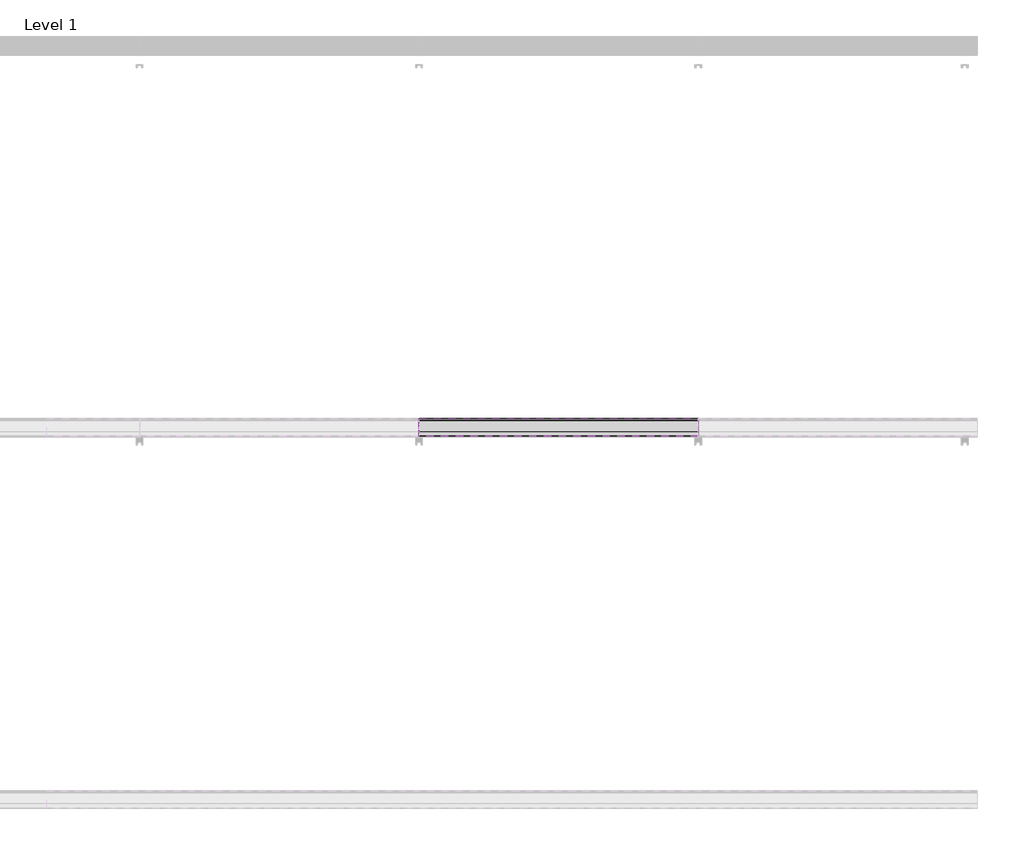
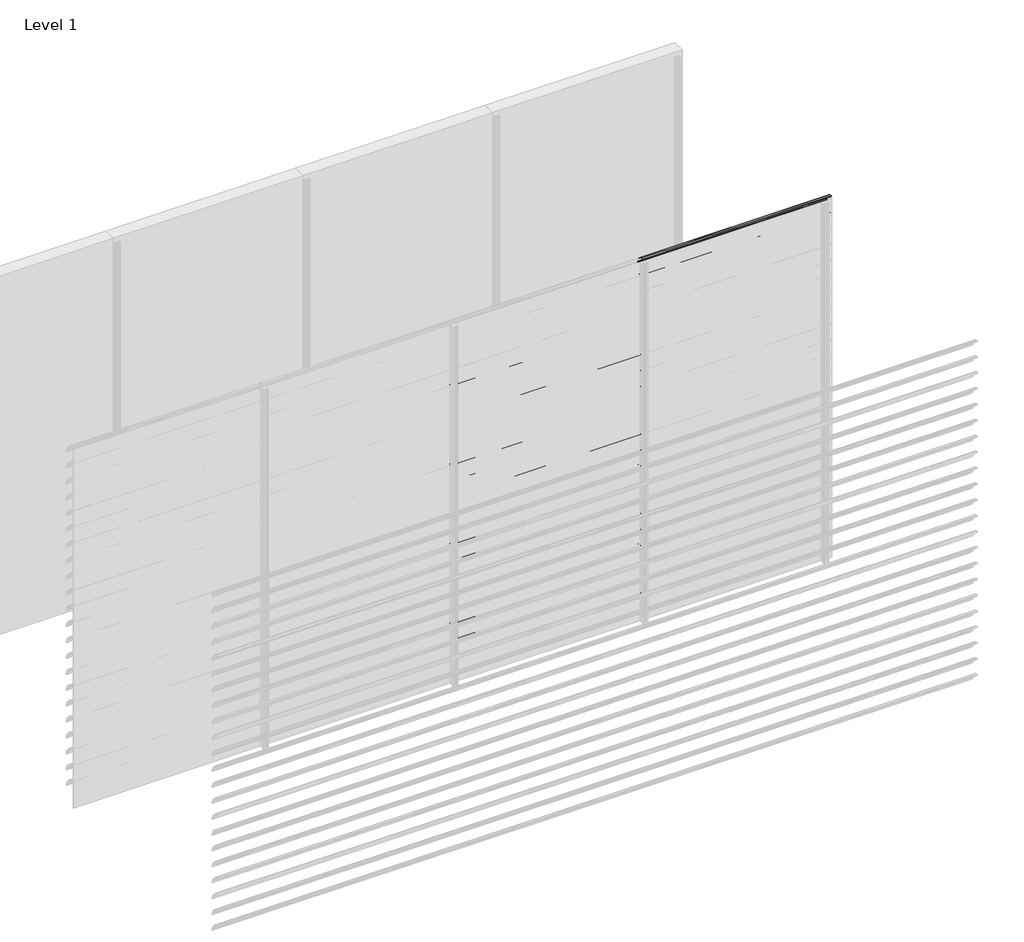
# One storey, part 45 of 57: 20 proxies.
"""IFC4 building model written with IfcOpenShell, lengths in millimetres."""

from ifc_helpers import new_model, si_unit, point, frame, frame_2d, origin, place, context, project, spatial, polyline, circle_curve, trimmed, segment, composite_curve, outline, extrude, element, save

model = new_model("IFC4")

# Units and contexts
model_context = context("Model", 3, world=origin())
ifc_project = project(units=[si_unit("LENGTHUNIT", "METRE", prefix="MILLI")], contexts=[model_context])

# Site, building, storey
site = spatial("IfcSite", under=ifc_project)
building = spatial("IfcBuilding", under=site)
storey = spatial("IfcBuildingStorey", under=building, Name="Level 1", Elevation=0.0)

# Proxies
placement = place(None, origin())
element("IfcBuildingElementProxy", 1, Name="Wall Sweeps", at=placement, inside=storey, context=model_context, shape_type="SweptSolid", body=[
    extrude(outline(composite_curve([segment(trimmed(circle_curve(frame_2d((-11993.7822526, 2484.4913792)), 4.2177474), [point((-11989.6985606, 2485.5462976))], [point((-11993.7822526, 2488.7091266))], False, "CARTESIAN"), True, "CONTINUOUS"), segment(trimmed(circle_curve(frame_2d((-12018.7150834, 2386.2536312)), 105.4456002), [point((-11993.7822526, 2488.7091266))], [point((-11971.7914298, 2480.6832099))], False, "CARTESIAN"), True, "CONTINUOUS"), segment(trimmed(circle_curve(frame_2d((-12061.7199745, 2332.0352476)), 173.7335887), [point((-11971.7914298, 2480.6832099))], [point((-11913.0720121, 2421.9637922))], False, "CARTESIAN"), True, "CONTINUOUS"), segment(trimmed(circle_curve(frame_2d((-12004.9297178, 2370.1860314)), 105.4456002), [point((-11913.0720121, 2421.9637922))], [point((-11903.6249616, 2399.4455765))], False, "CARTESIAN"), True, "CONTINUOUS"), segment(trimmed(circle_curve(frame_2d((-11907.809737, 2398.3307305)), 4.3307305), [point((-11903.6249616, 2399.4455765))], [point((-11909.0769196, 2394.189538))], False, "CARTESIAN"), True, "CONTINUOUS"), segment(polyline([(-11909.0769196, 2394.189538), (-11934.7401984, 2418.9722783)]), True, "CONTINUOUS"), segment(trimmed(circle_curve(frame_2d((-11931.3879574, 2421.2977626)), 4.079877), [point((-11934.7401984, 2418.9722783))], [point((-11930.7310597, 2425.3244091))], False, "CARTESIAN"), True, "CONTINUOUS"), segment(trimmed(circle_curve(frame_2d((-12014.6665585, 2403.2544323)), 86.7885467), [point((-11930.7310597, 2425.3244091))], [point((-11942.3028351, 2451.1683485))], True, "CARTESIAN"), True, "CONTINUOUS"), segment(polyline([(-11942.3028351, 2451.1683485), (-11940.7230099, 2453.9046861)]), True, "CONTINUOUS"), segment(trimmed(circle_curve(frame_2d((-12061.7199745, 2332.0352476)), 171.7335887), [point((-11940.7230099, 2453.9046861))], [point((-11972.7555872, 2478.9289618))], True, "CARTESIAN"), True, "CONTINUOUS"), segment(trimmed(circle_curve(frame_2d((-12018.7150834, 2386.2536312)), 103.4456002), [point((-11972.7555872, 2478.9289618))], [point((-11989.6985606, 2485.5462976))], True, "CARTESIAN"), True, "CONTINUOUS")], self_intersect=False)), frame((3000.0, 0.0, 0.0), z_axis=(1.0, 0.0, 0.0), x_axis=(0.0, 1.0, 0.0)), (0.0, 0.0, 1.0), 1500.0),
])
element("IfcBuildingElementProxy", 2, Name="Wall Sweeps", at=placement, inside=storey, context=model_context, shape_type="SweptSolid", body=[
    extrude(outline(composite_curve([segment(trimmed(circle_curve(frame_2d((-11993.7822526, 2351.4913792)), 4.2177474), [point((-11989.6985606, 2352.5462976))], [point((-11993.7822526, 2355.7091266))], False, "CARTESIAN"), True, "CONTINUOUS"), segment(trimmed(circle_curve(frame_2d((-12018.7150834, 2253.2536312)), 105.4456002), [point((-11993.7822526, 2355.7091266))], [point((-11971.7914298, 2347.6832099))], False, "CARTESIAN"), True, "CONTINUOUS"), segment(trimmed(circle_curve(frame_2d((-12061.7199745, 2199.0352476)), 173.7335887), [point((-11971.7914298, 2347.6832099))], [point((-11913.0720121, 2288.9637922))], False, "CARTESIAN"), True, "CONTINUOUS"), segment(trimmed(circle_curve(frame_2d((-12004.9297178, 2237.1860314)), 105.4456002), [point((-11913.0720121, 2288.9637922))], [point((-11903.6249616, 2266.4455765))], False, "CARTESIAN"), True, "CONTINUOUS"), segment(trimmed(circle_curve(frame_2d((-11907.809737, 2265.3307305)), 4.3307305), [point((-11903.6249616, 2266.4455765))], [point((-11909.0769196, 2261.189538))], False, "CARTESIAN"), True, "CONTINUOUS"), segment(polyline([(-11909.0769196, 2261.189538), (-11934.7401984, 2285.9722783)]), True, "CONTINUOUS"), segment(trimmed(circle_curve(frame_2d((-11931.3879574, 2288.2977626)), 4.079877), [point((-11934.7401984, 2285.9722783))], [point((-11930.7310597, 2292.3244091))], False, "CARTESIAN"), True, "CONTINUOUS"), segment(trimmed(circle_curve(frame_2d((-12014.6665585, 2270.2544323)), 86.7885467), [point((-11930.7310597, 2292.3244091))], [point((-11942.3028351, 2318.1683485))], True, "CARTESIAN"), True, "CONTINUOUS"), segment(polyline([(-11942.3028351, 2318.1683485), (-11940.7230099, 2320.9046861)]), True, "CONTINUOUS"), segment(trimmed(circle_curve(frame_2d((-12061.7199745, 2199.0352476)), 171.7335887), [point((-11940.7230099, 2320.9046861))], [point((-11972.7555872, 2345.9289618))], True, "CARTESIAN"), True, "CONTINUOUS"), segment(trimmed(circle_curve(frame_2d((-12018.7150834, 2253.2536312)), 103.4456002), [point((-11972.7555872, 2345.9289618))], [point((-11989.6985606, 2352.5462976))], True, "CARTESIAN"), True, "CONTINUOUS")], self_intersect=False)), frame((3000.0, 0.0, 0.0), z_axis=(1.0, 0.0, 0.0), x_axis=(0.0, 1.0, 0.0)), (0.0, 0.0, 1.0), 1500.0),
])
element("IfcBuildingElementProxy", 3, Name="Wall Sweeps", at=placement, inside=storey, context=model_context, shape_type="SweptSolid", body=[
    extrude(outline(composite_curve([segment(trimmed(circle_curve(frame_2d((-11993.7822526, 2218.4913792)), 4.2177474), [point((-11989.6985606, 2219.5462976))], [point((-11993.7822526, 2222.7091266))], False, "CARTESIAN"), True, "CONTINUOUS"), segment(trimmed(circle_curve(frame_2d((-12018.7150834, 2120.2536312)), 105.4456002), [point((-11993.7822526, 2222.7091266))], [point((-11971.7914298, 2214.6832099))], False, "CARTESIAN"), True, "CONTINUOUS"), segment(trimmed(circle_curve(frame_2d((-12061.7199745, 2066.0352476)), 173.7335887), [point((-11971.7914298, 2214.6832099))], [point((-11913.0720121, 2155.9637922))], False, "CARTESIAN"), True, "CONTINUOUS"), segment(trimmed(circle_curve(frame_2d((-12004.9297178, 2104.1860314)), 105.4456002), [point((-11913.0720121, 2155.9637922))], [point((-11903.6249616, 2133.4455765))], False, "CARTESIAN"), True, "CONTINUOUS"), segment(trimmed(circle_curve(frame_2d((-11907.809737, 2132.3307305)), 4.3307305), [point((-11903.6249616, 2133.4455765))], [point((-11909.0769196, 2128.189538))], False, "CARTESIAN"), True, "CONTINUOUS"), segment(polyline([(-11909.0769196, 2128.189538), (-11934.7401984, 2152.9722783)]), True, "CONTINUOUS"), segment(trimmed(circle_curve(frame_2d((-11931.3879574, 2155.2977626)), 4.079877), [point((-11934.7401984, 2152.9722783))], [point((-11930.7310597, 2159.3244091))], False, "CARTESIAN"), True, "CONTINUOUS"), segment(trimmed(circle_curve(frame_2d((-12014.6665585, 2137.2544323)), 86.7885467), [point((-11930.7310597, 2159.3244091))], [point((-11942.3028351, 2185.1683485))], True, "CARTESIAN"), True, "CONTINUOUS"), segment(polyline([(-11942.3028351, 2185.1683485), (-11940.7230099, 2187.9046861)]), True, "CONTINUOUS"), segment(trimmed(circle_curve(frame_2d((-12061.7199745, 2066.0352476)), 171.7335887), [point((-11940.7230099, 2187.9046861))], [point((-11972.7555872, 2212.9289618))], True, "CARTESIAN"), True, "CONTINUOUS"), segment(trimmed(circle_curve(frame_2d((-12018.7150834, 2120.2536312)), 103.4456002), [point((-11972.7555872, 2212.9289618))], [point((-11989.6985606, 2219.5462976))], True, "CARTESIAN"), True, "CONTINUOUS")], self_intersect=False)), frame((3000.0, 0.0, 0.0), z_axis=(1.0, 0.0, 0.0), x_axis=(0.0, 1.0, 0.0)), (0.0, 0.0, 1.0), 1500.0),
])
element("IfcBuildingElementProxy", 4, Name="Wall Sweeps", at=placement, inside=storey, context=model_context, shape_type="SweptSolid", body=[
    extrude(outline(composite_curve([segment(trimmed(circle_curve(frame_2d((-11993.7822526, 2085.4913792)), 4.2177474), [point((-11989.6985606, 2086.5462976))], [point((-11993.7822526, 2089.7091266))], False, "CARTESIAN"), True, "CONTINUOUS"), segment(trimmed(circle_curve(frame_2d((-12018.7150834, 1987.2536312)), 105.4456002), [point((-11993.7822526, 2089.7091266))], [point((-11971.7914298, 2081.6832099))], False, "CARTESIAN"), True, "CONTINUOUS"), segment(trimmed(circle_curve(frame_2d((-12061.7199745, 1933.0352476)), 173.7335887), [point((-11971.7914298, 2081.6832099))], [point((-11913.0720121, 2022.9637922))], False, "CARTESIAN"), True, "CONTINUOUS"), segment(trimmed(circle_curve(frame_2d((-12004.9297178, 1971.1860314)), 105.4456002), [point((-11913.0720121, 2022.9637922))], [point((-11903.6249616, 2000.4455765))], False, "CARTESIAN"), True, "CONTINUOUS"), segment(trimmed(circle_curve(frame_2d((-11907.809737, 1999.3307305)), 4.3307305), [point((-11903.6249616, 2000.4455765))], [point((-11909.0769196, 1995.189538))], False, "CARTESIAN"), True, "CONTINUOUS"), segment(polyline([(-11909.0769196, 1995.189538), (-11934.7401984, 2019.9722783)]), True, "CONTINUOUS"), segment(trimmed(circle_curve(frame_2d((-11931.3879574, 2022.2977626)), 4.079877), [point((-11934.7401984, 2019.9722783))], [point((-11930.7310597, 2026.3244091))], False, "CARTESIAN"), True, "CONTINUOUS"), segment(trimmed(circle_curve(frame_2d((-12014.6665585, 2004.2544323)), 86.7885467), [point((-11930.7310597, 2026.3244091))], [point((-11942.3028351, 2052.1683485))], True, "CARTESIAN"), True, "CONTINUOUS"), segment(polyline([(-11942.3028351, 2052.1683485), (-11940.7230099, 2054.9046861)]), True, "CONTINUOUS"), segment(trimmed(circle_curve(frame_2d((-12061.7199745, 1933.0352476)), 171.7335887), [point((-11940.7230099, 2054.9046861))], [point((-11972.7555872, 2079.9289618))], True, "CARTESIAN"), True, "CONTINUOUS"), segment(trimmed(circle_curve(frame_2d((-12018.7150834, 1987.2536312)), 103.4456002), [point((-11972.7555872, 2079.9289618))], [point((-11989.6985606, 2086.5462976))], True, "CARTESIAN"), True, "CONTINUOUS")], self_intersect=False)), frame((3000.0, 0.0, 0.0), z_axis=(1.0, 0.0, 0.0), x_axis=(0.0, 1.0, 0.0)), (0.0, 0.0, 1.0), 1500.0),
])
element("IfcBuildingElementProxy", 5, Name="Wall Sweeps", at=placement, inside=storey, context=model_context, shape_type="SweptSolid", body=[
    extrude(outline(composite_curve([segment(trimmed(circle_curve(frame_2d((-11993.7822526, 1952.4913792)), 4.2177474), [point((-11989.6985606, 1953.5462976))], [point((-11993.7822526, 1956.7091266))], False, "CARTESIAN"), True, "CONTINUOUS"), segment(trimmed(circle_curve(frame_2d((-12018.7150834, 1854.2536312)), 105.4456002), [point((-11993.7822526, 1956.7091266))], [point((-11971.7914298, 1948.6832099))], False, "CARTESIAN"), True, "CONTINUOUS"), segment(trimmed(circle_curve(frame_2d((-12061.7199745, 1800.0352476)), 173.7335887), [point((-11971.7914298, 1948.6832099))], [point((-11913.0720121, 1889.9637922))], False, "CARTESIAN"), True, "CONTINUOUS"), segment(trimmed(circle_curve(frame_2d((-12004.9297178, 1838.1860314)), 105.4456002), [point((-11913.0720121, 1889.9637922))], [point((-11903.6249616, 1867.4455765))], False, "CARTESIAN"), True, "CONTINUOUS"), segment(trimmed(circle_curve(frame_2d((-11907.809737, 1866.3307305)), 4.3307305), [point((-11903.6249616, 1867.4455765))], [point((-11909.0769196, 1862.189538))], False, "CARTESIAN"), True, "CONTINUOUS"), segment(polyline([(-11909.0769196, 1862.189538), (-11934.7401984, 1886.9722783)]), True, "CONTINUOUS"), segment(trimmed(circle_curve(frame_2d((-11931.3879574, 1889.2977626)), 4.079877), [point((-11934.7401984, 1886.9722783))], [point((-11930.7310597, 1893.3244091))], False, "CARTESIAN"), True, "CONTINUOUS"), segment(trimmed(circle_curve(frame_2d((-12014.6665585, 1871.2544323)), 86.7885467), [point((-11930.7310597, 1893.3244091))], [point((-11942.3028351, 1919.1683485))], True, "CARTESIAN"), True, "CONTINUOUS"), segment(polyline([(-11942.3028351, 1919.1683485), (-11940.7230099, 1921.9046861)]), True, "CONTINUOUS"), segment(trimmed(circle_curve(frame_2d((-12061.7199745, 1800.0352476)), 171.7335887), [point((-11940.7230099, 1921.9046861))], [point((-11972.7555872, 1946.9289618))], True, "CARTESIAN"), True, "CONTINUOUS"), segment(trimmed(circle_curve(frame_2d((-12018.7150834, 1854.2536312)), 103.4456002), [point((-11972.7555872, 1946.9289618))], [point((-11989.6985606, 1953.5462976))], True, "CARTESIAN"), True, "CONTINUOUS")], self_intersect=False)), frame((3000.0, 0.0, 0.0), z_axis=(1.0, 0.0, 0.0), x_axis=(0.0, 1.0, 0.0)), (0.0, 0.0, 1.0), 1500.0),
])
element("IfcBuildingElementProxy", 6, Name="Wall Sweeps", at=placement, inside=storey, context=model_context, shape_type="SweptSolid", body=[
    extrude(outline(composite_curve([segment(trimmed(circle_curve(frame_2d((-11993.7822526, 1819.4913792)), 4.2177474), [point((-11989.6985606, 1820.5462976))], [point((-11993.7822526, 1823.7091266))], False, "CARTESIAN"), True, "CONTINUOUS"), segment(trimmed(circle_curve(frame_2d((-12018.7150834, 1721.2536312)), 105.4456002), [point((-11993.7822526, 1823.7091266))], [point((-11971.7914298, 1815.6832099))], False, "CARTESIAN"), True, "CONTINUOUS"), segment(trimmed(circle_curve(frame_2d((-12061.7199745, 1667.0352476)), 173.7335887), [point((-11971.7914298, 1815.6832099))], [point((-11913.0720121, 1756.9637922))], False, "CARTESIAN"), True, "CONTINUOUS"), segment(trimmed(circle_curve(frame_2d((-12004.9297178, 1705.1860314)), 105.4456002), [point((-11913.0720121, 1756.9637922))], [point((-11903.6249616, 1734.4455765))], False, "CARTESIAN"), True, "CONTINUOUS"), segment(trimmed(circle_curve(frame_2d((-11907.809737, 1733.3307305)), 4.3307305), [point((-11903.6249616, 1734.4455765))], [point((-11909.0769196, 1729.189538))], False, "CARTESIAN"), True, "CONTINUOUS"), segment(polyline([(-11909.0769196, 1729.189538), (-11934.7401984, 1753.9722783)]), True, "CONTINUOUS"), segment(trimmed(circle_curve(frame_2d((-11931.3879574, 1756.2977626)), 4.079877), [point((-11934.7401984, 1753.9722783))], [point((-11930.7310597, 1760.3244091))], False, "CARTESIAN"), True, "CONTINUOUS"), segment(trimmed(circle_curve(frame_2d((-12014.6665585, 1738.2544323)), 86.7885467), [point((-11930.7310597, 1760.3244091))], [point((-11942.3028351, 1786.1683485))], True, "CARTESIAN"), True, "CONTINUOUS"), segment(polyline([(-11942.3028351, 1786.1683485), (-11940.7230099, 1788.9046861)]), True, "CONTINUOUS"), segment(trimmed(circle_curve(frame_2d((-12061.7199745, 1667.0352476)), 171.7335887), [point((-11940.7230099, 1788.9046861))], [point((-11972.7555872, 1813.9289618))], True, "CARTESIAN"), True, "CONTINUOUS"), segment(trimmed(circle_curve(frame_2d((-12018.7150834, 1721.2536312)), 103.4456002), [point((-11972.7555872, 1813.9289618))], [point((-11989.6985606, 1820.5462976))], True, "CARTESIAN"), True, "CONTINUOUS")], self_intersect=False)), frame((3000.0, 0.0, 0.0), z_axis=(1.0, 0.0, 0.0), x_axis=(0.0, 1.0, 0.0)), (0.0, 0.0, 1.0), 1500.0),
])
element("IfcBuildingElementProxy", 7, Name="Wall Sweeps", at=placement, inside=storey, context=model_context, shape_type="SweptSolid", body=[
    extrude(outline(composite_curve([segment(trimmed(circle_curve(frame_2d((-11993.7822526, 1686.4913792)), 4.2177474), [point((-11989.6985606, 1687.5462976))], [point((-11993.7822526, 1690.7091266))], False, "CARTESIAN"), True, "CONTINUOUS"), segment(trimmed(circle_curve(frame_2d((-12018.7150834, 1588.2536312)), 105.4456002), [point((-11993.7822526, 1690.7091266))], [point((-11971.7914298, 1682.6832099))], False, "CARTESIAN"), True, "CONTINUOUS"), segment(trimmed(circle_curve(frame_2d((-12061.7199745, 1534.0352476)), 173.7335887), [point((-11971.7914298, 1682.6832099))], [point((-11913.0720121, 1623.9637922))], False, "CARTESIAN"), True, "CONTINUOUS"), segment(trimmed(circle_curve(frame_2d((-12004.9297178, 1572.1860314)), 105.4456002), [point((-11913.0720121, 1623.9637922))], [point((-11903.6249616, 1601.4455765))], False, "CARTESIAN"), True, "CONTINUOUS"), segment(trimmed(circle_curve(frame_2d((-11907.809737, 1600.3307305)), 4.3307305), [point((-11903.6249616, 1601.4455765))], [point((-11909.0769196, 1596.189538))], False, "CARTESIAN"), True, "CONTINUOUS"), segment(polyline([(-11909.0769196, 1596.189538), (-11934.7401984, 1620.9722783)]), True, "CONTINUOUS"), segment(trimmed(circle_curve(frame_2d((-11931.3879574, 1623.2977626)), 4.079877), [point((-11934.7401984, 1620.9722783))], [point((-11930.7310597, 1627.3244091))], False, "CARTESIAN"), True, "CONTINUOUS"), segment(trimmed(circle_curve(frame_2d((-12014.6665585, 1605.2544323)), 86.7885467), [point((-11930.7310597, 1627.3244091))], [point((-11942.3028351, 1653.1683485))], True, "CARTESIAN"), True, "CONTINUOUS"), segment(polyline([(-11942.3028351, 1653.1683485), (-11940.7230099, 1655.9046861)]), True, "CONTINUOUS"), segment(trimmed(circle_curve(frame_2d((-12061.7199745, 1534.0352476)), 171.7335887), [point((-11940.7230099, 1655.9046861))], [point((-11972.7555872, 1680.9289618))], True, "CARTESIAN"), True, "CONTINUOUS"), segment(trimmed(circle_curve(frame_2d((-12018.7150834, 1588.2536312)), 103.4456002), [point((-11972.7555872, 1680.9289618))], [point((-11989.6985606, 1687.5462976))], True, "CARTESIAN"), True, "CONTINUOUS")], self_intersect=False)), frame((3000.0, 0.0, 0.0), z_axis=(1.0, 0.0, 0.0), x_axis=(0.0, 1.0, 0.0)), (0.0, 0.0, 1.0), 1500.0),
])
element("IfcBuildingElementProxy", 8, Name="Wall Sweeps", at=placement, inside=storey, context=model_context, shape_type="SweptSolid", body=[
    extrude(outline(composite_curve([segment(trimmed(circle_curve(frame_2d((-11993.7822526, 1553.4913792)), 4.2177474), [point((-11989.6985606, 1554.5462976))], [point((-11993.7822526, 1557.7091266))], False, "CARTESIAN"), True, "CONTINUOUS"), segment(trimmed(circle_curve(frame_2d((-12018.7150834, 1455.2536312)), 105.4456002), [point((-11993.7822526, 1557.7091266))], [point((-11971.7914298, 1549.6832099))], False, "CARTESIAN"), True, "CONTINUOUS"), segment(trimmed(circle_curve(frame_2d((-12061.7199745, 1401.0352476)), 173.7335887), [point((-11971.7914298, 1549.6832099))], [point((-11913.0720121, 1490.9637922))], False, "CARTESIAN"), True, "CONTINUOUS"), segment(trimmed(circle_curve(frame_2d((-12004.9297178, 1439.1860314)), 105.4456002), [point((-11913.0720121, 1490.9637922))], [point((-11903.6249616, 1468.4455765))], False, "CARTESIAN"), True, "CONTINUOUS"), segment(trimmed(circle_curve(frame_2d((-11907.809737, 1467.3307305)), 4.3307305), [point((-11903.6249616, 1468.4455765))], [point((-11909.0769196, 1463.189538))], False, "CARTESIAN"), True, "CONTINUOUS"), segment(polyline([(-11909.0769196, 1463.189538), (-11934.7401984, 1487.9722783)]), True, "CONTINUOUS"), segment(trimmed(circle_curve(frame_2d((-11931.3879574, 1490.2977626)), 4.079877), [point((-11934.7401984, 1487.9722783))], [point((-11930.7310597, 1494.3244091))], False, "CARTESIAN"), True, "CONTINUOUS"), segment(trimmed(circle_curve(frame_2d((-12014.6665585, 1472.2544323)), 86.7885467), [point((-11930.7310597, 1494.3244091))], [point((-11942.3028351, 1520.1683485))], True, "CARTESIAN"), True, "CONTINUOUS"), segment(polyline([(-11942.3028351, 1520.1683485), (-11940.7230099, 1522.9046861)]), True, "CONTINUOUS"), segment(trimmed(circle_curve(frame_2d((-12061.7199745, 1401.0352476)), 171.7335887), [point((-11940.7230099, 1522.9046861))], [point((-11972.7555872, 1547.9289618))], True, "CARTESIAN"), True, "CONTINUOUS"), segment(trimmed(circle_curve(frame_2d((-12018.7150834, 1455.2536312)), 103.4456002), [point((-11972.7555872, 1547.9289618))], [point((-11989.6985606, 1554.5462976))], True, "CARTESIAN"), True, "CONTINUOUS")], self_intersect=False)), frame((3000.0, 0.0, 0.0), z_axis=(1.0, 0.0, 0.0), x_axis=(0.0, 1.0, 0.0)), (0.0, 0.0, 1.0), 1500.0),
])
element("IfcBuildingElementProxy", 9, Name="Wall Sweeps", at=placement, inside=storey, context=model_context, shape_type="SweptSolid", body=[
    extrude(outline(composite_curve([segment(trimmed(circle_curve(frame_2d((-11993.7822526, 1420.4913792)), 4.2177474), [point((-11989.6985606, 1421.5462976))], [point((-11993.7822526, 1424.7091266))], False, "CARTESIAN"), True, "CONTINUOUS"), segment(trimmed(circle_curve(frame_2d((-12018.7150834, 1322.2536312)), 105.4456002), [point((-11993.7822526, 1424.7091266))], [point((-11971.7914298, 1416.6832099))], False, "CARTESIAN"), True, "CONTINUOUS"), segment(trimmed(circle_curve(frame_2d((-12061.7199745, 1268.0352476)), 173.7335887), [point((-11971.7914298, 1416.6832099))], [point((-11913.0720121, 1357.9637922))], False, "CARTESIAN"), True, "CONTINUOUS"), segment(trimmed(circle_curve(frame_2d((-12004.9297178, 1306.1860314)), 105.4456002), [point((-11913.0720121, 1357.9637922))], [point((-11903.6249616, 1335.4455765))], False, "CARTESIAN"), True, "CONTINUOUS"), segment(trimmed(circle_curve(frame_2d((-11907.809737, 1334.3307305)), 4.3307305), [point((-11903.6249616, 1335.4455765))], [point((-11909.0769196, 1330.189538))], False, "CARTESIAN"), True, "CONTINUOUS"), segment(polyline([(-11909.0769196, 1330.189538), (-11934.7401984, 1354.9722783)]), True, "CONTINUOUS"), segment(trimmed(circle_curve(frame_2d((-11931.3879574, 1357.2977626)), 4.079877), [point((-11934.7401984, 1354.9722783))], [point((-11930.7310597, 1361.3244091))], False, "CARTESIAN"), True, "CONTINUOUS"), segment(trimmed(circle_curve(frame_2d((-12014.6665585, 1339.2544323)), 86.7885467), [point((-11930.7310597, 1361.3244091))], [point((-11942.3028351, 1387.1683485))], True, "CARTESIAN"), True, "CONTINUOUS"), segment(polyline([(-11942.3028351, 1387.1683485), (-11940.7230099, 1389.9046861)]), True, "CONTINUOUS"), segment(trimmed(circle_curve(frame_2d((-12061.7199745, 1268.0352476)), 171.7335887), [point((-11940.7230099, 1389.9046861))], [point((-11972.7555872, 1414.9289618))], True, "CARTESIAN"), True, "CONTINUOUS"), segment(trimmed(circle_curve(frame_2d((-12018.7150834, 1322.2536312)), 103.4456002), [point((-11972.7555872, 1414.9289618))], [point((-11989.6985606, 1421.5462976))], True, "CARTESIAN"), True, "CONTINUOUS")], self_intersect=False)), frame((3000.0, 0.0, 0.0), z_axis=(1.0, 0.0, 0.0), x_axis=(0.0, 1.0, 0.0)), (0.0, 0.0, 1.0), 1500.0),
])
element("IfcBuildingElementProxy", 10, Name="Wall Sweeps", at=placement, inside=storey, context=model_context, shape_type="SweptSolid", body=[
    extrude(outline(composite_curve([segment(trimmed(circle_curve(frame_2d((-11993.7822526, 1287.4913792)), 4.2177474), [point((-11989.6985606, 1288.5462976))], [point((-11993.7822526, 1291.7091266))], False, "CARTESIAN"), True, "CONTINUOUS"), segment(trimmed(circle_curve(frame_2d((-12018.7150834, 1189.2536312)), 105.4456002), [point((-11993.7822526, 1291.7091266))], [point((-11971.7914298, 1283.6832099))], False, "CARTESIAN"), True, "CONTINUOUS"), segment(trimmed(circle_curve(frame_2d((-12061.7199745, 1135.0352476)), 173.7335887), [point((-11971.7914298, 1283.6832099))], [point((-11913.0720121, 1224.9637922))], False, "CARTESIAN"), True, "CONTINUOUS"), segment(trimmed(circle_curve(frame_2d((-12004.9297178, 1173.1860314)), 105.4456002), [point((-11913.0720121, 1224.9637922))], [point((-11903.6249616, 1202.4455765))], False, "CARTESIAN"), True, "CONTINUOUS"), segment(trimmed(circle_curve(frame_2d((-11907.809737, 1201.3307305)), 4.3307305), [point((-11903.6249616, 1202.4455765))], [point((-11909.0769196, 1197.189538))], False, "CARTESIAN"), True, "CONTINUOUS"), segment(polyline([(-11909.0769196, 1197.189538), (-11934.7401984, 1221.9722783)]), True, "CONTINUOUS"), segment(trimmed(circle_curve(frame_2d((-11931.3879574, 1224.2977626)), 4.079877), [point((-11934.7401984, 1221.9722783))], [point((-11930.7310597, 1228.3244091))], False, "CARTESIAN"), True, "CONTINUOUS"), segment(trimmed(circle_curve(frame_2d((-12014.6665585, 1206.2544323)), 86.7885467), [point((-11930.7310597, 1228.3244091))], [point((-11942.3028351, 1254.1683485))], True, "CARTESIAN"), True, "CONTINUOUS"), segment(polyline([(-11942.3028351, 1254.1683485), (-11940.7230099, 1256.9046861)]), True, "CONTINUOUS"), segment(trimmed(circle_curve(frame_2d((-12061.7199745, 1135.0352476)), 171.7335887), [point((-11940.7230099, 1256.9046861))], [point((-11972.7555872, 1281.9289618))], True, "CARTESIAN"), True, "CONTINUOUS"), segment(trimmed(circle_curve(frame_2d((-12018.7150834, 1189.2536312)), 103.4456002), [point((-11972.7555872, 1281.9289618))], [point((-11989.6985606, 1288.5462976))], True, "CARTESIAN"), True, "CONTINUOUS")], self_intersect=False)), frame((3000.0, 0.0, 0.0), z_axis=(1.0, 0.0, 0.0), x_axis=(0.0, 1.0, 0.0)), (0.0, 0.0, 1.0), 1500.0),
])
element("IfcBuildingElementProxy", 11, Name="Wall Sweeps", at=placement, inside=storey, context=model_context, shape_type="SweptSolid", body=[
    extrude(outline(composite_curve([segment(trimmed(circle_curve(frame_2d((-11993.7822526, 1154.4913792)), 4.2177474), [point((-11989.6985606, 1155.5462976))], [point((-11993.7822526, 1158.7091266))], False, "CARTESIAN"), True, "CONTINUOUS"), segment(trimmed(circle_curve(frame_2d((-12018.7150834, 1056.2536312)), 105.4456002), [point((-11993.7822526, 1158.7091266))], [point((-11971.7914298, 1150.6832099))], False, "CARTESIAN"), True, "CONTINUOUS"), segment(trimmed(circle_curve(frame_2d((-12061.7199745, 1002.0352476)), 173.7335887), [point((-11971.7914298, 1150.6832099))], [point((-11913.0720121, 1091.9637922))], False, "CARTESIAN"), True, "CONTINUOUS"), segment(trimmed(circle_curve(frame_2d((-12004.9297178, 1040.1860314)), 105.4456002), [point((-11913.0720121, 1091.9637922))], [point((-11903.6249616, 1069.4455765))], False, "CARTESIAN"), True, "CONTINUOUS"), segment(trimmed(circle_curve(frame_2d((-11907.809737, 1068.3307305)), 4.3307305), [point((-11903.6249616, 1069.4455765))], [point((-11909.0769196, 1064.189538))], False, "CARTESIAN"), True, "CONTINUOUS"), segment(polyline([(-11909.0769196, 1064.189538), (-11934.7401984, 1088.9722783)]), True, "CONTINUOUS"), segment(trimmed(circle_curve(frame_2d((-11931.3879574, 1091.2977626)), 4.079877), [point((-11934.7401984, 1088.9722783))], [point((-11930.7310597, 1095.3244091))], False, "CARTESIAN"), True, "CONTINUOUS"), segment(trimmed(circle_curve(frame_2d((-12014.6665585, 1073.2544323)), 86.7885467), [point((-11930.7310597, 1095.3244091))], [point((-11942.3028351, 1121.1683485))], True, "CARTESIAN"), True, "CONTINUOUS"), segment(polyline([(-11942.3028351, 1121.1683485), (-11940.7230099, 1123.9046861)]), True, "CONTINUOUS"), segment(trimmed(circle_curve(frame_2d((-12061.7199745, 1002.0352476)), 171.7335887), [point((-11940.7230099, 1123.9046861))], [point((-11972.7555872, 1148.9289618))], True, "CARTESIAN"), True, "CONTINUOUS"), segment(trimmed(circle_curve(frame_2d((-12018.7150834, 1056.2536312)), 103.4456002), [point((-11972.7555872, 1148.9289618))], [point((-11989.6985606, 1155.5462976))], True, "CARTESIAN"), True, "CONTINUOUS")], self_intersect=False)), frame((3000.0, 0.0, 0.0), z_axis=(1.0, 0.0, 0.0), x_axis=(0.0, 1.0, 0.0)), (0.0, 0.0, 1.0), 1500.0),
])
element("IfcBuildingElementProxy", 12, Name="Wall Sweeps", at=placement, inside=storey, context=model_context, shape_type="SweptSolid", body=[
    extrude(outline(composite_curve([segment(trimmed(circle_curve(frame_2d((-11993.7822526, 1021.4913792)), 4.2177474), [point((-11989.6985606, 1022.5462976))], [point((-11993.7822526, 1025.7091266))], False, "CARTESIAN"), True, "CONTINUOUS"), segment(trimmed(circle_curve(frame_2d((-12018.7150834, 923.2536312)), 105.4456002), [point((-11993.7822526, 1025.7091266))], [point((-11971.7914298, 1017.6832099))], False, "CARTESIAN"), True, "CONTINUOUS"), segment(trimmed(circle_curve(frame_2d((-12061.7199745, 869.0352476)), 173.7335887), [point((-11971.7914298, 1017.6832099))], [point((-11913.0720121, 958.9637922))], False, "CARTESIAN"), True, "CONTINUOUS"), segment(trimmed(circle_curve(frame_2d((-12004.9297178, 907.1860314)), 105.4456002), [point((-11913.0720121, 958.9637922))], [point((-11903.6249616, 936.4455765))], False, "CARTESIAN"), True, "CONTINUOUS"), segment(trimmed(circle_curve(frame_2d((-11907.809737, 935.3307305)), 4.3307305), [point((-11903.6249616, 936.4455765))], [point((-11909.0769196, 931.189538))], False, "CARTESIAN"), True, "CONTINUOUS"), segment(polyline([(-11909.0769196, 931.189538), (-11934.7401984, 955.9722783)]), True, "CONTINUOUS"), segment(trimmed(circle_curve(frame_2d((-11931.3879574, 958.2977626)), 4.079877), [point((-11934.7401984, 955.9722783))], [point((-11930.7310597, 962.3244091))], False, "CARTESIAN"), True, "CONTINUOUS"), segment(trimmed(circle_curve(frame_2d((-12014.6665585, 940.2544323)), 86.7885467), [point((-11930.7310597, 962.3244091))], [point((-11942.3028351, 988.1683485))], True, "CARTESIAN"), True, "CONTINUOUS"), segment(polyline([(-11942.3028351, 988.1683485), (-11940.7230099, 990.9046861)]), True, "CONTINUOUS"), segment(trimmed(circle_curve(frame_2d((-12061.7199745, 869.0352476)), 171.7335887), [point((-11940.7230099, 990.9046861))], [point((-11972.7555872, 1015.9289618))], True, "CARTESIAN"), True, "CONTINUOUS"), segment(trimmed(circle_curve(frame_2d((-12018.7150834, 923.2536312)), 103.4456002), [point((-11972.7555872, 1015.9289618))], [point((-11989.6985606, 1022.5462976))], True, "CARTESIAN"), True, "CONTINUOUS")], self_intersect=False)), frame((3000.0, 0.0, 0.0), z_axis=(1.0, 0.0, 0.0), x_axis=(0.0, 1.0, 0.0)), (0.0, 0.0, 1.0), 1500.0),
])
element("IfcBuildingElementProxy", 13, Name="Wall Sweeps", at=placement, inside=storey, context=model_context, shape_type="SweptSolid", body=[
    extrude(outline(composite_curve([segment(trimmed(circle_curve(frame_2d((-11993.7822526, 888.4913792)), 4.2177474), [point((-11989.6985606, 889.5462976))], [point((-11993.7822526, 892.7091266))], False, "CARTESIAN"), True, "CONTINUOUS"), segment(trimmed(circle_curve(frame_2d((-12018.7150834, 790.2536312)), 105.4456002), [point((-11993.7822526, 892.7091266))], [point((-11971.7914298, 884.6832099))], False, "CARTESIAN"), True, "CONTINUOUS"), segment(trimmed(circle_curve(frame_2d((-12061.7199745, 736.0352476)), 173.7335887), [point((-11971.7914298, 884.6832099))], [point((-11913.0720121, 825.9637922))], False, "CARTESIAN"), True, "CONTINUOUS"), segment(trimmed(circle_curve(frame_2d((-12004.9297178, 774.1860314)), 105.4456002), [point((-11913.0720121, 825.9637922))], [point((-11903.6249616, 803.4455765))], False, "CARTESIAN"), True, "CONTINUOUS"), segment(trimmed(circle_curve(frame_2d((-11907.809737, 802.3307305)), 4.3307305), [point((-11903.6249616, 803.4455765))], [point((-11909.0769196, 798.189538))], False, "CARTESIAN"), True, "CONTINUOUS"), segment(polyline([(-11909.0769196, 798.189538), (-11934.7401984, 822.9722783)]), True, "CONTINUOUS"), segment(trimmed(circle_curve(frame_2d((-11931.3879574, 825.2977626)), 4.079877), [point((-11934.7401984, 822.9722783))], [point((-11930.7310597, 829.3244091))], False, "CARTESIAN"), True, "CONTINUOUS"), segment(trimmed(circle_curve(frame_2d((-12014.6665585, 807.2544323)), 86.7885467), [point((-11930.7310597, 829.3244091))], [point((-11942.3028351, 855.1683485))], True, "CARTESIAN"), True, "CONTINUOUS"), segment(polyline([(-11942.3028351, 855.1683485), (-11940.7230099, 857.9046861)]), True, "CONTINUOUS"), segment(trimmed(circle_curve(frame_2d((-12061.7199745, 736.0352476)), 171.7335887), [point((-11940.7230099, 857.9046861))], [point((-11972.7555872, 882.9289618))], True, "CARTESIAN"), True, "CONTINUOUS"), segment(trimmed(circle_curve(frame_2d((-12018.7150834, 790.2536312)), 103.4456002), [point((-11972.7555872, 882.9289618))], [point((-11989.6985606, 889.5462976))], True, "CARTESIAN"), True, "CONTINUOUS")], self_intersect=False)), frame((3000.0, 0.0, 0.0), z_axis=(1.0, 0.0, 0.0), x_axis=(0.0, 1.0, 0.0)), (0.0, 0.0, 1.0), 1500.0),
])
element("IfcBuildingElementProxy", 14, Name="Wall Sweeps", at=placement, inside=storey, context=model_context, shape_type="SweptSolid", body=[
    extrude(outline(composite_curve([segment(trimmed(circle_curve(frame_2d((-11993.7822526, 755.4913792)), 4.2177474), [point((-11989.6985606, 756.5462976))], [point((-11993.7822526, 759.7091266))], False, "CARTESIAN"), True, "CONTINUOUS"), segment(trimmed(circle_curve(frame_2d((-12018.7150834, 657.2536312)), 105.4456002), [point((-11993.7822526, 759.7091266))], [point((-11971.7914298, 751.6832099))], False, "CARTESIAN"), True, "CONTINUOUS"), segment(trimmed(circle_curve(frame_2d((-12061.7199745, 603.0352476)), 173.7335887), [point((-11971.7914298, 751.6832099))], [point((-11913.0720121, 692.9637922))], False, "CARTESIAN"), True, "CONTINUOUS"), segment(trimmed(circle_curve(frame_2d((-12004.9297178, 641.1860314)), 105.4456002), [point((-11913.0720121, 692.9637922))], [point((-11903.6249616, 670.4455765))], False, "CARTESIAN"), True, "CONTINUOUS"), segment(trimmed(circle_curve(frame_2d((-11907.809737, 669.3307305)), 4.3307305), [point((-11903.6249616, 670.4455765))], [point((-11909.0769196, 665.189538))], False, "CARTESIAN"), True, "CONTINUOUS"), segment(polyline([(-11909.0769196, 665.189538), (-11934.7401984, 689.9722783)]), True, "CONTINUOUS"), segment(trimmed(circle_curve(frame_2d((-11931.3879574, 692.2977626)), 4.079877), [point((-11934.7401984, 689.9722783))], [point((-11930.7310597, 696.3244091))], False, "CARTESIAN"), True, "CONTINUOUS"), segment(trimmed(circle_curve(frame_2d((-12014.6665585, 674.2544323)), 86.7885467), [point((-11930.7310597, 696.3244091))], [point((-11942.3028351, 722.1683485))], True, "CARTESIAN"), True, "CONTINUOUS"), segment(polyline([(-11942.3028351, 722.1683485), (-11940.7230099, 724.9046861)]), True, "CONTINUOUS"), segment(trimmed(circle_curve(frame_2d((-12061.7199745, 603.0352476)), 171.7335887), [point((-11940.7230099, 724.9046861))], [point((-11972.7555872, 749.9289618))], True, "CARTESIAN"), True, "CONTINUOUS"), segment(trimmed(circle_curve(frame_2d((-12018.7150834, 657.2536312)), 103.4456002), [point((-11972.7555872, 749.9289618))], [point((-11989.6985606, 756.5462976))], True, "CARTESIAN"), True, "CONTINUOUS")], self_intersect=False)), frame((3000.0, 0.0, 0.0), z_axis=(1.0, 0.0, 0.0), x_axis=(0.0, 1.0, 0.0)), (0.0, 0.0, 1.0), 1500.0),
])
element("IfcBuildingElementProxy", 15, Name="Wall Sweeps", at=placement, inside=storey, context=model_context, shape_type="SweptSolid", body=[
    extrude(outline(composite_curve([segment(trimmed(circle_curve(frame_2d((-11993.7822526, 622.4913792)), 4.2177474), [point((-11989.6985606, 623.5462976))], [point((-11993.7822526, 626.7091266))], False, "CARTESIAN"), True, "CONTINUOUS"), segment(trimmed(circle_curve(frame_2d((-12018.7150834, 524.2536312)), 105.4456002), [point((-11993.7822526, 626.7091266))], [point((-11971.7914298, 618.6832099))], False, "CARTESIAN"), True, "CONTINUOUS"), segment(trimmed(circle_curve(frame_2d((-12061.7199745, 470.0352476)), 173.7335887), [point((-11971.7914298, 618.6832099))], [point((-11913.0720121, 559.9637922))], False, "CARTESIAN"), True, "CONTINUOUS"), segment(trimmed(circle_curve(frame_2d((-12004.9297178, 508.1860314)), 105.4456002), [point((-11913.0720121, 559.9637922))], [point((-11903.6249616, 537.4455765))], False, "CARTESIAN"), True, "CONTINUOUS"), segment(trimmed(circle_curve(frame_2d((-11907.809737, 536.3307305)), 4.3307305), [point((-11903.6249616, 537.4455765))], [point((-11909.0769196, 532.189538))], False, "CARTESIAN"), True, "CONTINUOUS"), segment(polyline([(-11909.0769196, 532.189538), (-11934.7401984, 556.9722783)]), True, "CONTINUOUS"), segment(trimmed(circle_curve(frame_2d((-11931.3879574, 559.2977626)), 4.079877), [point((-11934.7401984, 556.9722783))], [point((-11930.7310597, 563.3244091))], False, "CARTESIAN"), True, "CONTINUOUS"), segment(trimmed(circle_curve(frame_2d((-12014.6665585, 541.2544323)), 86.7885467), [point((-11930.7310597, 563.3244091))], [point((-11942.3028351, 589.1683485))], True, "CARTESIAN"), True, "CONTINUOUS"), segment(polyline([(-11942.3028351, 589.1683485), (-11940.7230099, 591.9046861)]), True, "CONTINUOUS"), segment(trimmed(circle_curve(frame_2d((-12061.7199745, 470.0352476)), 171.7335887), [point((-11940.7230099, 591.9046861))], [point((-11972.7555872, 616.9289618))], True, "CARTESIAN"), True, "CONTINUOUS"), segment(trimmed(circle_curve(frame_2d((-12018.7150834, 524.2536312)), 103.4456002), [point((-11972.7555872, 616.9289618))], [point((-11989.6985606, 623.5462976))], True, "CARTESIAN"), True, "CONTINUOUS")], self_intersect=False)), frame((3000.0, 0.0, 0.0), z_axis=(1.0, 0.0, 0.0), x_axis=(0.0, 1.0, 0.0)), (0.0, 0.0, 1.0), 1500.0),
])
element("IfcBuildingElementProxy", 16, Name="Wall Sweeps", at=placement, inside=storey, context=model_context, shape_type="SweptSolid", body=[
    extrude(outline(composite_curve([segment(trimmed(circle_curve(frame_2d((-11993.7822526, 489.4913792)), 4.2177474), [point((-11989.6985606, 490.5462976))], [point((-11993.7822526, 493.7091266))], False, "CARTESIAN"), True, "CONTINUOUS"), segment(trimmed(circle_curve(frame_2d((-12018.7150834, 391.2536312)), 105.4456002), [point((-11993.7822526, 493.7091266))], [point((-11971.7914298, 485.6832099))], False, "CARTESIAN"), True, "CONTINUOUS"), segment(trimmed(circle_curve(frame_2d((-12061.7199745, 337.0352476)), 173.7335887), [point((-11971.7914298, 485.6832099))], [point((-11913.0720121, 426.9637922))], False, "CARTESIAN"), True, "CONTINUOUS"), segment(trimmed(circle_curve(frame_2d((-12004.9297178, 375.1860314)), 105.4456002), [point((-11913.0720121, 426.9637922))], [point((-11903.6249616, 404.4455765))], False, "CARTESIAN"), True, "CONTINUOUS"), segment(trimmed(circle_curve(frame_2d((-11907.809737, 403.3307305)), 4.3307305), [point((-11903.6249616, 404.4455765))], [point((-11909.0769196, 399.189538))], False, "CARTESIAN"), True, "CONTINUOUS"), segment(polyline([(-11909.0769196, 399.189538), (-11934.7401984, 423.9722783)]), True, "CONTINUOUS"), segment(trimmed(circle_curve(frame_2d((-11931.3879574, 426.2977626)), 4.079877), [point((-11934.7401984, 423.9722783))], [point((-11930.7310597, 430.3244091))], False, "CARTESIAN"), True, "CONTINUOUS"), segment(trimmed(circle_curve(frame_2d((-12014.6665585, 408.2544323)), 86.7885467), [point((-11930.7310597, 430.3244091))], [point((-11942.3028351, 456.1683485))], True, "CARTESIAN"), True, "CONTINUOUS"), segment(polyline([(-11942.3028351, 456.1683485), (-11940.7230099, 458.9046861)]), True, "CONTINUOUS"), segment(trimmed(circle_curve(frame_2d((-12061.7199745, 337.0352476)), 171.7335887), [point((-11940.7230099, 458.9046861))], [point((-11972.7555872, 483.9289618))], True, "CARTESIAN"), True, "CONTINUOUS"), segment(trimmed(circle_curve(frame_2d((-12018.7150834, 391.2536312)), 103.4456002), [point((-11972.7555872, 483.9289618))], [point((-11989.6985606, 490.5462976))], True, "CARTESIAN"), True, "CONTINUOUS")], self_intersect=False)), frame((3000.0, 0.0, 0.0), z_axis=(1.0, 0.0, 0.0), x_axis=(0.0, 1.0, 0.0)), (0.0, 0.0, 1.0), 1500.0),
])
element("IfcBuildingElementProxy", 17, Name="Wall Sweeps", at=placement, inside=storey, context=model_context, shape_type="SweptSolid", body=[
    extrude(outline(composite_curve([segment(trimmed(circle_curve(frame_2d((-11993.7822526, 356.4913792)), 4.2177474), [point((-11989.6985606, 357.5462976))], [point((-11993.7822526, 360.7091266))], False, "CARTESIAN"), True, "CONTINUOUS"), segment(trimmed(circle_curve(frame_2d((-12018.7150834, 258.2536312)), 105.4456002), [point((-11993.7822526, 360.7091266))], [point((-11971.7914298, 352.6832099))], False, "CARTESIAN"), True, "CONTINUOUS"), segment(trimmed(circle_curve(frame_2d((-12061.7199745, 204.0352476)), 173.7335887), [point((-11971.7914298, 352.6832099))], [point((-11913.0720121, 293.9637922))], False, "CARTESIAN"), True, "CONTINUOUS"), segment(trimmed(circle_curve(frame_2d((-12004.9297178, 242.1860314)), 105.4456002), [point((-11913.0720121, 293.9637922))], [point((-11903.6249616, 271.4455765))], False, "CARTESIAN"), True, "CONTINUOUS"), segment(trimmed(circle_curve(frame_2d((-11907.809737, 270.3307305)), 4.3307305), [point((-11903.6249616, 271.4455765))], [point((-11909.0769196, 266.189538))], False, "CARTESIAN"), True, "CONTINUOUS"), segment(polyline([(-11909.0769196, 266.189538), (-11934.7401984, 290.9722783)]), True, "CONTINUOUS"), segment(trimmed(circle_curve(frame_2d((-11931.3879574, 293.2977626)), 4.079877), [point((-11934.7401984, 290.9722783))], [point((-11930.7310597, 297.3244091))], False, "CARTESIAN"), True, "CONTINUOUS"), segment(trimmed(circle_curve(frame_2d((-12014.6665585, 275.2544323)), 86.7885467), [point((-11930.7310597, 297.3244091))], [point((-11942.3028351, 323.1683485))], True, "CARTESIAN"), True, "CONTINUOUS"), segment(polyline([(-11942.3028351, 323.1683485), (-11940.7230099, 325.9046861)]), True, "CONTINUOUS"), segment(trimmed(circle_curve(frame_2d((-12061.7199745, 204.0352476)), 171.7335887), [point((-11940.7230099, 325.9046861))], [point((-11972.7555872, 350.9289618))], True, "CARTESIAN"), True, "CONTINUOUS"), segment(trimmed(circle_curve(frame_2d((-12018.7150834, 258.2536312)), 103.4456002), [point((-11972.7555872, 350.9289618))], [point((-11989.6985606, 357.5462976))], True, "CARTESIAN"), True, "CONTINUOUS")], self_intersect=False)), frame((3000.0, 0.0, 0.0), z_axis=(1.0, 0.0, 0.0), x_axis=(0.0, 1.0, 0.0)), (0.0, 0.0, 1.0), 1500.0),
])
element("IfcBuildingElementProxy", 18, Name="Wall Sweeps", at=placement, inside=storey, context=model_context, shape_type="SweptSolid", body=[
    extrude(outline(composite_curve([segment(trimmed(circle_curve(frame_2d((-11993.7822526, 223.4913792)), 4.2177474), [point((-11989.6985606, 224.5462976))], [point((-11993.7822526, 227.7091266))], False, "CARTESIAN"), True, "CONTINUOUS"), segment(trimmed(circle_curve(frame_2d((-12018.7150834, 125.2536312)), 105.4456002), [point((-11993.7822526, 227.7091266))], [point((-11971.7914298, 219.6832099))], False, "CARTESIAN"), True, "CONTINUOUS"), segment(trimmed(circle_curve(frame_2d((-12061.7199745, 71.0352476)), 173.7335887), [point((-11971.7914298, 219.6832099))], [point((-11913.0720121, 160.9637922))], False, "CARTESIAN"), True, "CONTINUOUS"), segment(trimmed(circle_curve(frame_2d((-12004.9297178, 109.1860314)), 105.4456002), [point((-11913.0720121, 160.9637922))], [point((-11903.6249616, 138.4455765))], False, "CARTESIAN"), True, "CONTINUOUS"), segment(trimmed(circle_curve(frame_2d((-11907.809737, 137.3307305)), 4.3307305), [point((-11903.6249616, 138.4455765))], [point((-11909.0769196, 133.189538))], False, "CARTESIAN"), True, "CONTINUOUS"), segment(polyline([(-11909.0769196, 133.189538), (-11934.7401984, 157.9722783)]), True, "CONTINUOUS"), segment(trimmed(circle_curve(frame_2d((-11931.3879574, 160.2977626)), 4.079877), [point((-11934.7401984, 157.9722783))], [point((-11930.7310597, 164.3244091))], False, "CARTESIAN"), True, "CONTINUOUS"), segment(trimmed(circle_curve(frame_2d((-12014.6665585, 142.2544323)), 86.7885467), [point((-11930.7310597, 164.3244091))], [point((-11942.3028351, 190.1683485))], True, "CARTESIAN"), True, "CONTINUOUS"), segment(polyline([(-11942.3028351, 190.1683485), (-11940.7230099, 192.9046861)]), True, "CONTINUOUS"), segment(trimmed(circle_curve(frame_2d((-12061.7199745, 71.0352476)), 171.7335887), [point((-11940.7230099, 192.9046861))], [point((-11972.7555872, 217.9289618))], True, "CARTESIAN"), True, "CONTINUOUS"), segment(trimmed(circle_curve(frame_2d((-12018.7150834, 125.2536312)), 103.4456002), [point((-11972.7555872, 217.9289618))], [point((-11989.6985606, 224.5462976))], True, "CARTESIAN"), True, "CONTINUOUS")], self_intersect=False)), frame((3000.0, 0.0, 0.0), z_axis=(1.0, 0.0, 0.0), x_axis=(0.0, 1.0, 0.0)), (0.0, 0.0, 1.0), 1500.0),
])
element("IfcBuildingElementProxy", 19, Name="Wall Sweeps", at=placement, inside=storey, context=model_context, shape_type="SweptSolid", body=[
    extrude(outline(composite_curve([segment(trimmed(circle_curve(frame_2d((-11993.7822526, 3016.4913792)), 4.2177474), [point((-11989.6985606, 3017.5462976))], [point((-11993.7822526, 3020.7091266))], False, "CARTESIAN"), True, "CONTINUOUS"), segment(trimmed(circle_curve(frame_2d((-12018.7150834, 2918.2536312)), 105.4456002), [point((-11993.7822526, 3020.7091266))], [point((-11971.7914298, 3012.6832099))], False, "CARTESIAN"), True, "CONTINUOUS"), segment(trimmed(circle_curve(frame_2d((-12061.7199745, 2864.0352476)), 173.7335887), [point((-11971.7914298, 3012.6832099))], [point((-11913.0720121, 2953.9637922))], False, "CARTESIAN"), True, "CONTINUOUS"), segment(trimmed(circle_curve(frame_2d((-12004.9297178, 2902.1860314)), 105.4456002), [point((-11913.0720121, 2953.9637922))], [point((-11903.6249616, 2931.4455765))], False, "CARTESIAN"), True, "CONTINUOUS"), segment(trimmed(circle_curve(frame_2d((-11907.809737, 2930.3307305)), 4.3307305), [point((-11903.6249616, 2931.4455765))], [point((-11909.0769196, 2926.189538))], False, "CARTESIAN"), True, "CONTINUOUS"), segment(polyline([(-11909.0769196, 2926.189538), (-11934.7401984, 2950.9722783)]), True, "CONTINUOUS"), segment(trimmed(circle_curve(frame_2d((-11931.3879574, 2953.2977626)), 4.079877), [point((-11934.7401984, 2950.9722783))], [point((-11930.7310597, 2957.3244091))], False, "CARTESIAN"), True, "CONTINUOUS"), segment(trimmed(circle_curve(frame_2d((-12014.6665585, 2935.2544323)), 86.7885467), [point((-11930.7310597, 2957.3244091))], [point((-11942.3028351, 2983.1683485))], True, "CARTESIAN"), True, "CONTINUOUS"), segment(polyline([(-11942.3028351, 2983.1683485), (-11940.7230099, 2985.9046861)]), True, "CONTINUOUS"), segment(trimmed(circle_curve(frame_2d((-12061.7199745, 2864.0352476)), 171.7335887), [point((-11940.7230099, 2985.9046861))], [point((-11972.7555872, 3010.9289618))], True, "CARTESIAN"), True, "CONTINUOUS"), segment(trimmed(circle_curve(frame_2d((-12018.7150834, 2918.2536312)), 103.4456002), [point((-11972.7555872, 3010.9289618))], [point((-11989.6985606, 3017.5462976))], True, "CARTESIAN"), True, "CONTINUOUS")], self_intersect=False)), frame((4500.0, 0.0, 0.0), z_axis=(1.0, 0.0, 0.0), x_axis=(0.0, 1.0, 0.0)), (0.0, 0.0, 1.0), 1500.0),
])
element("IfcBuildingElementProxy", 20, Name="Wall Sweeps", at=placement, inside=storey, context=model_context, shape_type="SweptSolid", body=[
    extrude(outline(composite_curve([segment(trimmed(circle_curve(frame_2d((-11993.7822526, 2883.4913792)), 4.2177474), [point((-11989.6985606, 2884.5462976))], [point((-11993.7822526, 2887.7091266))], False, "CARTESIAN"), True, "CONTINUOUS"), segment(trimmed(circle_curve(frame_2d((-12018.7150834, 2785.2536312)), 105.4456002), [point((-11993.7822526, 2887.7091266))], [point((-11971.7914298, 2879.6832099))], False, "CARTESIAN"), True, "CONTINUOUS"), segment(trimmed(circle_curve(frame_2d((-12061.7199745, 2731.0352476)), 173.7335887), [point((-11971.7914298, 2879.6832099))], [point((-11913.0720121, 2820.9637922))], False, "CARTESIAN"), True, "CONTINUOUS"), segment(trimmed(circle_curve(frame_2d((-12004.9297178, 2769.1860314)), 105.4456002), [point((-11913.0720121, 2820.9637922))], [point((-11903.6249616, 2798.4455765))], False, "CARTESIAN"), True, "CONTINUOUS"), segment(trimmed(circle_curve(frame_2d((-11907.809737, 2797.3307305)), 4.3307305), [point((-11903.6249616, 2798.4455765))], [point((-11909.0769196, 2793.189538))], False, "CARTESIAN"), True, "CONTINUOUS"), segment(polyline([(-11909.0769196, 2793.189538), (-11934.7401984, 2817.9722783)]), True, "CONTINUOUS"), segment(trimmed(circle_curve(frame_2d((-11931.3879574, 2820.2977626)), 4.079877), [point((-11934.7401984, 2817.9722783))], [point((-11930.7310597, 2824.3244091))], False, "CARTESIAN"), True, "CONTINUOUS"), segment(trimmed(circle_curve(frame_2d((-12014.6665585, 2802.2544323)), 86.7885467), [point((-11930.7310597, 2824.3244091))], [point((-11942.3028351, 2850.1683485))], True, "CARTESIAN"), True, "CONTINUOUS"), segment(polyline([(-11942.3028351, 2850.1683485), (-11940.7230099, 2852.9046861)]), True, "CONTINUOUS"), segment(trimmed(circle_curve(frame_2d((-12061.7199745, 2731.0352476)), 171.7335887), [point((-11940.7230099, 2852.9046861))], [point((-11972.7555872, 2877.9289618))], True, "CARTESIAN"), True, "CONTINUOUS"), segment(trimmed(circle_curve(frame_2d((-12018.7150834, 2785.2536312)), 103.4456002), [point((-11972.7555872, 2877.9289618))], [point((-11989.6985606, 2884.5462976))], True, "CARTESIAN"), True, "CONTINUOUS")], self_intersect=False)), frame((4500.0, 0.0, 0.0), z_axis=(1.0, 0.0, 0.0), x_axis=(0.0, 1.0, 0.0)), (0.0, 0.0, 1.0), 1500.0),
])

save(model, "model.ifc")
